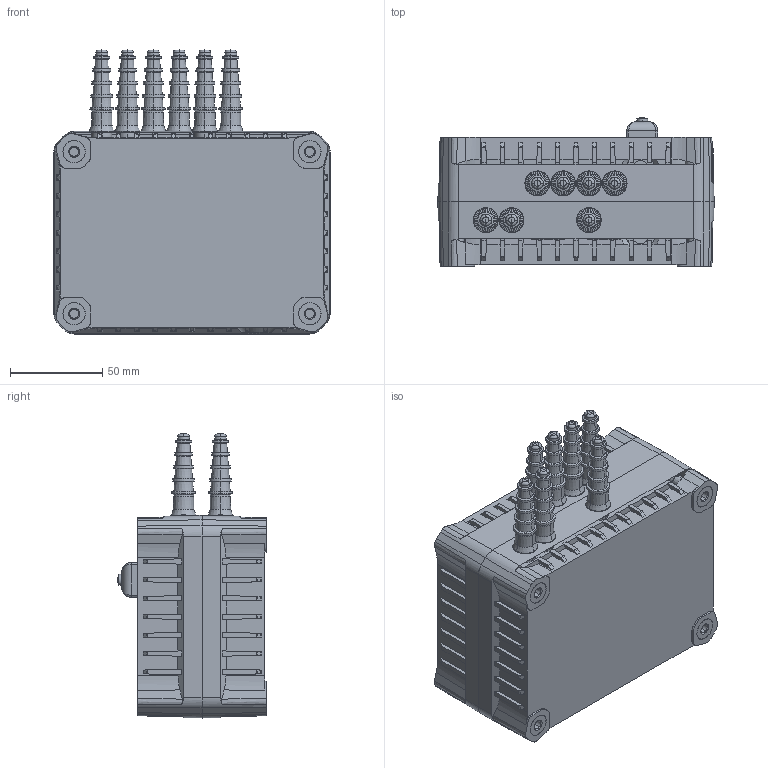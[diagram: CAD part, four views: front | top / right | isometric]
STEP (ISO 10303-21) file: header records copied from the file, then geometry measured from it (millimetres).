
FILE_DESCRIPTION (( 'STEP AP203' ), '1' );
FILE_NAME ('S-1297.STEP', '2018-05-28T11:51:49', ( '' ), ( '' ), 'SwSTEP 2.0', 'SolidWorks 2018', '' );
FILE_SCHEMA (( 'CONFIG_CONTROL_DESIGN' ));
Length unit declared in the file: millimetre
Products named in the file (1): S-1297
Bounding box: 150 x 80.87 x 154.23 mm (x, y, z)
Volume: 658623.4 mm3; surface area: 179510.3 mm2
Topology: 18 solids, 47 shells, 3623 faces, 11840 edges, 8327 vertices
Faces by surface type: plane 1526, cone 853, cylinder 712, bspline 334, torus 188, sphere 10
Entity records: 178551 total; most frequent: CARTESIAN_POINT 78010, ORIENTED_EDGE 23624, DIRECTION 18110, EDGE_CURVE 11812, VERTEX_POINT 8327, VECTOR 6950, LINE 6950, AXIS2_PLACEMENT_3D 5580
